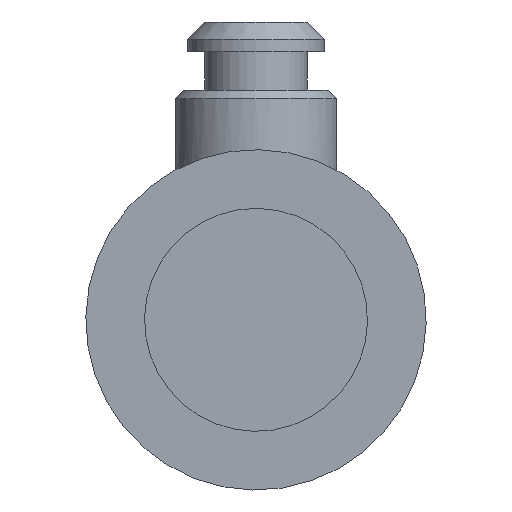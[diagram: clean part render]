
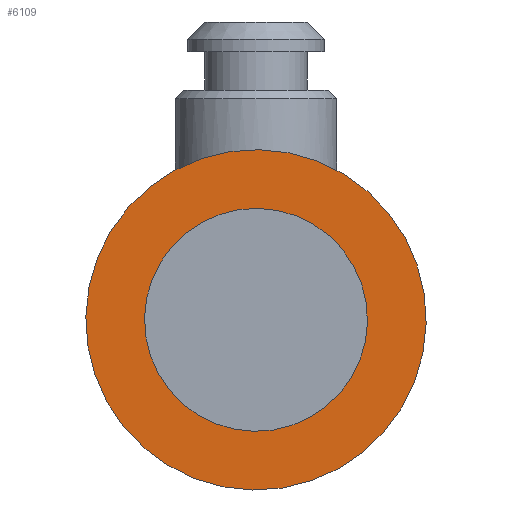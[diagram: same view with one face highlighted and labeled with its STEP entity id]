
A CAD part, front view. The second image highlights one B-rep face of the part: STEP entity #6109.
In plain terms, the highlighted planar face has unit normal (0, -1, 0).
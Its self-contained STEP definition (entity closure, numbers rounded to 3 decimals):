
#293 = EDGE_LOOP ( 'NONE', ( #17082, #16518 ) ) ;
#616 = VERTEX_POINT ( 'NONE', #9979 ) ;
#1593 = VERTEX_POINT ( 'NONE', #1711 ) ;
#1711 = CARTESIAN_POINT ( 'NONE',  ( 15.584, -459.6, 8.036 ) ) ;
#2266 = AXIS2_PLACEMENT_3D ( 'NONE', #5012, #8035, #16178 ) ;
#2325 = AXIS2_PLACEMENT_3D ( 'NONE', #8229, #15192, #2631 ) ;
#2631 = DIRECTION ( 'NONE',  ( -1., 0., 0. ) ) ;
#3899 = VERTEX_POINT ( 'NONE', #16708 ) ;
#4512 = EDGE_CURVE ( 'NONE', #1593, #13041, #17193, .T. ) ;
#4806 = EDGE_LOOP ( 'NONE', ( #5471, #7254 ) ) ;
#5012 = CARTESIAN_POINT ( 'NONE',  ( 0., -459.6, -4.5 ) ) ;
#5413 = DIRECTION ( 'NONE',  ( -0.779, 0., -0.627 ) ) ;
#5471 = ORIENTED_EDGE ( 'NONE', *, *, #14238, .F. ) ;
#5670 = FACE_BOUND ( 'NONE', #4806, .T. ) ;
#5755 = FACE_OUTER_BOUND ( 'NONE', #293, .T. ) ;
#6109 = ADVANCED_FACE ( 'NONE', ( #5670, #5755 ), #8415, .T. ) ;
#6585 = CIRCLE ( 'NONE', #11855, 13.1 ) ;
#7254 = ORIENTED_EDGE ( 'NONE', *, *, #12941, .F. ) ;
#7629 = DIRECTION ( 'NONE',  ( 0.779, 0., 0.627 ) ) ;
#7717 = CARTESIAN_POINT ( 'NONE',  ( 0., -459.6, -4.5 ) ) ;
#8035 = DIRECTION ( 'NONE',  ( 0., 1., 0. ) ) ;
#8229 = CARTESIAN_POINT ( 'NONE',  ( 0., -459.6, -4.5 ) ) ;
#8415 = PLANE ( 'NONE',  #2325 ) ;
#8702 = AXIS2_PLACEMENT_3D ( 'NONE', #7717, #17515, #7629 ) ;
#9191 = CARTESIAN_POINT ( 'NONE',  ( -15.584, -459.6, -17.036 ) ) ;
#9636 = CARTESIAN_POINT ( 'NONE',  ( 0., -459.6, -4.5 ) ) ;
#9822 = CIRCLE ( 'NONE', #11290, 13.1 ) ;
#9979 = CARTESIAN_POINT ( 'NONE',  ( -10.207, -459.6, -12.711 ) ) ;
#10564 = CARTESIAN_POINT ( 'NONE',  ( 0., -459.6, -4.5 ) ) ;
#10744 = DIRECTION ( 'NONE',  ( 0., -1., 0. ) ) ;
#10909 = DIRECTION ( 'NONE',  ( 0., -1., 0. ) ) ;
#10945 = EDGE_CURVE ( 'NONE', #13041, #1593, #16594, .T. ) ;
#11290 = AXIS2_PLACEMENT_3D ( 'NONE', #10564, #10744, #17423 ) ;
#11855 = AXIS2_PLACEMENT_3D ( 'NONE', #9636, #10909, #5413 ) ;
#12941 = EDGE_CURVE ( 'NONE', #3899, #616, #9822, .T. ) ;
#13041 = VERTEX_POINT ( 'NONE', #9191 ) ;
#14238 = EDGE_CURVE ( 'NONE', #616, #3899, #6585, .T. ) ;
#15192 = DIRECTION ( 'NONE',  ( 0., -1., 0. ) ) ;
#16178 = DIRECTION ( 'NONE',  ( 0.779, 0., 0.627 ) ) ;
#16518 = ORIENTED_EDGE ( 'NONE', *, *, #10945, .F. ) ;
#16594 = CIRCLE ( 'NONE', #8702, 20. ) ;
#16708 = CARTESIAN_POINT ( 'NONE',  ( 10.207, -459.6, 3.711 ) ) ;
#17082 = ORIENTED_EDGE ( 'NONE', *, *, #4512, .F. ) ;
#17193 = CIRCLE ( 'NONE', #2266, 20. ) ;
#17423 = DIRECTION ( 'NONE',  ( -0.779, 0., -0.627 ) ) ;
#17515 = DIRECTION ( 'NONE',  ( 0., 1., 0. ) ) ;
